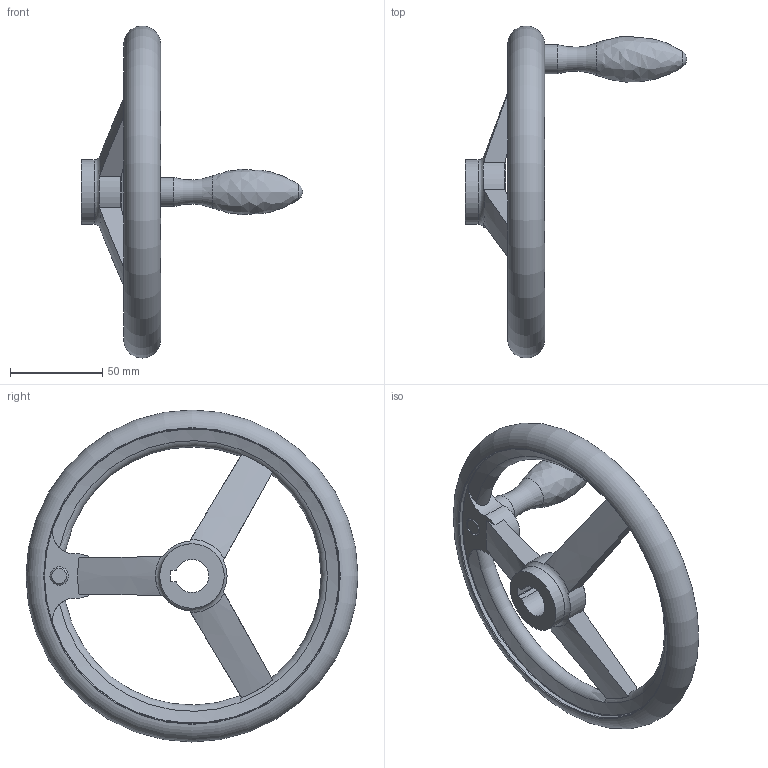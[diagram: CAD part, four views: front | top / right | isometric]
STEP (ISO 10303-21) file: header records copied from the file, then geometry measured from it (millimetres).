
FILE_DESCRIPTION( ( 'STEP AP203' ), '1' );
FILE_NAME( 'C:/Temp/Ganter_Step_05_03_2020/data/1_3/din_950/din_950_k/din_950_k_f/Handwheel DIN 950-GG-180-K18-F.stp', '2020-03-05T10:31:18', ( 'License CC BY-ND 4.0' ), ( 'CADENAS' ), ' ', 'PARTsolutions', ' ' );
FILE_SCHEMA( ( 'CONFIG_CONTROL_DESIGN' ) );
Length unit declared in the file: millimetre
Products named in the file (1): _Handwheel DIN 950-GG-180-K18-F
Bounding box: 120 x 179.99 x 179.99 mm (x, y, z)
Volume: 205661.1 mm3; surface area: 51355.8 mm2
Topology: 1 solids, 1 shells, 51 faces, 146 edges, 94 vertices
Faces by surface type: cylinder 15, plane 14, torus 13, cone 7, sphere 1, bspline 1
Full cylindrical faces by diameter (mm): 10 x1, 15.8 x1, 35 x2, 160 x2
Entity records: 1939 total; most frequent: CARTESIAN_POINT 704, ORIENTED_EDGE 240, DIRECTION 236, EDGE_CURVE 120, AXIS2_PLACEMENT_3D 106, VERTEX_POINT 88, EDGE_LOOP 74, FACE_OUTER_BOUND 66
